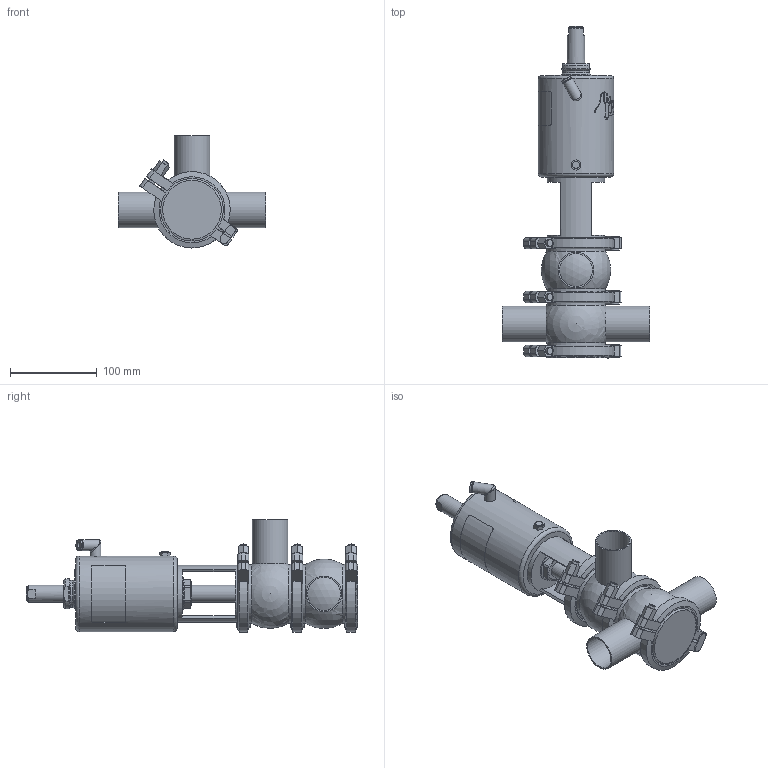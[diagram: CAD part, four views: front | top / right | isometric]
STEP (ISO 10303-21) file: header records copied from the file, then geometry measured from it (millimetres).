
FILE_DESCRIPTION (( 'STEP AP214' ), '1' );
FILE_NAME ('INNOVA M B W DIN 040 T1 AS NC_10.241.16.0004.STEP', '2024-08-07T13:06:21', ( '' ), ( '' ), 'SwSTEP 2.0', 'SolidWorks 2023', '' );
FILE_SCHEMA (( 'AUTOMOTIVE_DESIGN' ));
Length unit declared in the file: millimetre
Products named in the file (7): 10.240.15.0006_DIN 040; 10.240.15.0010_DN 040; 10.240.15.0001_DN 040; 10.240.15.0014_T1 AS P180; INNOVA M B W DIN 040 T1 AS NC_10.241.16.0004; 10.241.15.0001_DIN 040; 10.240.15.0007_DIN 040
Assembly tree (8 placements, depth 2):
  INNOVA M B W DIN 040 T1 AS NC_10.241.16.0004
    10.240.15.0006_DIN 040
    10.240.15.0007_DIN 040
    10.240.15.0010_DN 040
    10.240.15.0014_T1 AS P180
    10.240.15.0001_DN 040  x3
    10.241.15.0001_DIN 040
Bounding box: 170 x 382.07 x 129 mm (x, y, z)
Volume: 1509006.3 mm3; surface area: 232516.6 mm2
Topology: 9 solids, 9 shells, 463 faces, 1215 edges, 792 vertices
Faces by surface type: plane 226, cylinder 112, bspline 80, cone 36, sphere 5, torus 4
Full cylindrical faces by diameter (mm): 6.15 x1, 8 x7, 8.5 x1, 10.5 x1, 12.5 x3, 16 x1, 20 x2, 31 x1, 34.5 x2, 36.5 x1, 38 x3, 41 x3, 66 x1, 67.5 x5, 79.5 x6, 87 x1
Entity records: 19637 total; most frequent: CARTESIAN_POINT 10222, ORIENTED_EDGE 1624, DIRECTION 1271, EDGE_CURVE 812, VERTEX_POINT 563, AXIS2_PLACEMENT_3D 491, EDGE_LOOP 431, FACE_OUTER_BOUND 386
